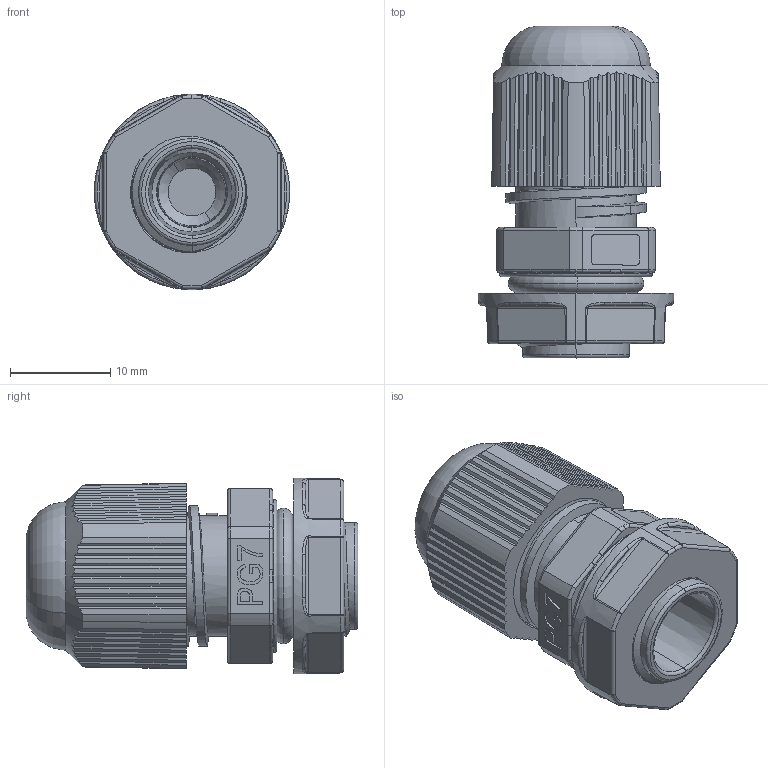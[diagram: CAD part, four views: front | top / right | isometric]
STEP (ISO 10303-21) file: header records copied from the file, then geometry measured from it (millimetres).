
FILE_DESCRIPTION (( 'STEP AP203' ), '1' );
FILE_NAME ('plc-pg-7-00.00.000ÑÁ Ñàëüíèê PG7 #cable gland PG7#.STEP', '2024-02-27T07:18:19', ( '' ), ( '' ), 'SwSTEP 2.0', 'SolidWorks 2021', '' );
FILE_SCHEMA (( 'CONFIG_CONTROL_DESIGN' ));
Length unit declared in the file: millimetre
Products named in the file (6): plc-pg-7-00.00.003 Ãàéêà ïðèæèìíàÿ (PG7-Ì12) #clamping nut (PG7-M12)#; plc-pg-7-00.00.004 Óïëîòíèòåëü (PG7) #sealant (PG7)#; plc-pg-7-00.00.000ÑÁ Ñàëüíèê PG7 #cable gland PG7#; plc-pg-7-00.00.002 Ãàéêà öàíãîâàÿ (PG7) #collet nut (PG7)#; plc-pg-7-00.00.005 ﾌ瑙趺 (PG7) #sealing ring (PG7)#; plc-pg-7-00.00.001 昢膼瘔 (PG7) #base (PG7)#
Assembly tree (5 placements, depth 2):
  plc-pg-7-00.00.000ÑÁ Ñàëüíèê PG7 #cable gland PG7#
    plc-pg-7-00.00.001 昢膼瘔 (PG7) #base (PG7)#
    plc-pg-7-00.00.002 Ãàéêà öàíãîâàÿ (PG7) #collet nut (PG7)#
    plc-pg-7-00.00.003 Ãàéêà ïðèæèìíàÿ (PG7-Ì12) #clamping nut (PG7-M12)#
    plc-pg-7-00.00.004 Óïëîòíèòåëü (PG7) #sealant (PG7)#
    plc-pg-7-00.00.005 ﾌ瑙趺 (PG7) #sealing ring (PG7)#
Bounding box: 19.5 x 33.08 x 19.5 mm (x, y, z)
Volume: 4708.1 mm3; surface area: 6721.9 mm2
Topology: 5 solids, 5 shells, 685 faces, 1803 edges, 1127 vertices
Faces by surface type: plane 313, cylinder 109, cone 102, torus 76, bspline 73, sphere 12
Entity records: 28004 total; most frequent: CARTESIAN_POINT 11870, ORIENTED_EDGE 3582, DIRECTION 2833, EDGE_CURVE 1791, VERTEX_POINT 1127, AXIS2_PLACEMENT_3D 1066, EDGE_LOOP 704, LINE 701
